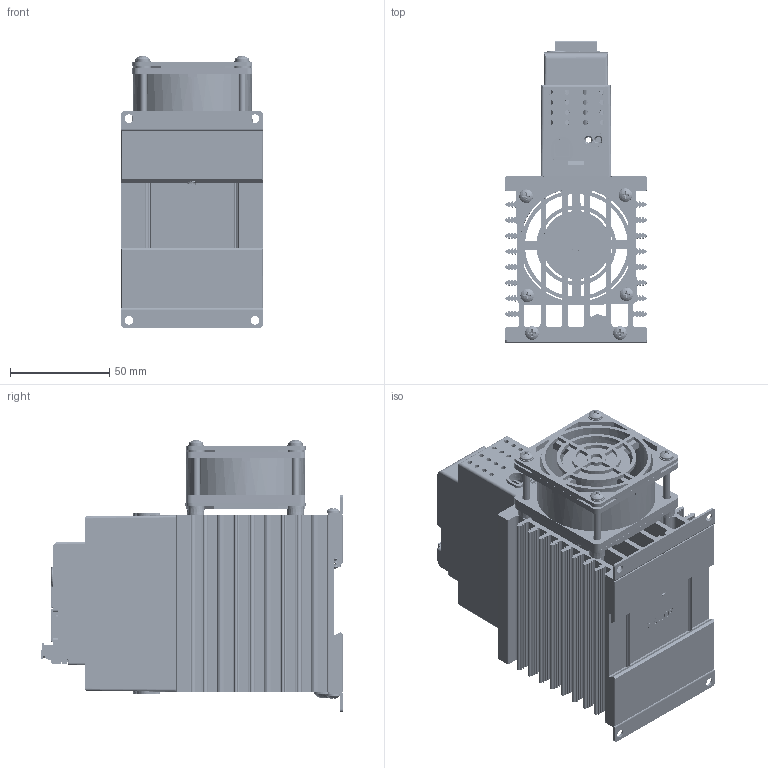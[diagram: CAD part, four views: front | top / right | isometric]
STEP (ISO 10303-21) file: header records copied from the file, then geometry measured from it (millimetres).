
FILE_DESCRIPTION(/* description */ (''),/* implementation_level */ '2;1');
FILE_NAME(/* name */ '1-phase Digital 65A w-mounting.stp',/* time_stamp */ '2024-10-29T13:17:07-05:00',/* author */ ('ErikG'),/* organization */ (''),/* preprocessor_version */ 'ST-DEVELOPER v20',/* originating_system */ 'Autodesk Inventor 2025',/* authorisation */ '');
FILE_SCHEMA (('AUTOMOTIVE_DESIGN { 1 0 10303 214 3 1 1 }'));
Products named in the file (30): 3001631e; 3001762; 1001592E; P6; fci 6 pin header OQ06120000J0G; fci 6 pin headerOQ06120000J0G half 1; fci 5 pin header OQ05120000J0G half 2; 0053035-0138-06; P4; P5; usb-c31-s-vt-cs4-bk-pp-t-r-model ADAMTECH; P2; 74990101210 (rev1); base; shielding; 3001759; 3001760; 3001755; 3001756; 3001747; 3001753; 0060002-0632-0375; 0060783-0610-010.ipt; spring; 0060702-1032-0375; 0060002-0632-1175; 62111-0006-0; 2R36_SQ_FAN_1R0 depth; 3001773; 3001772
Assembly tree (41 placements, depth 5):
  3001631e
    3001762
    1001592E
      P6
        fci 6 pin header OQ06120000J0G
          fci 6 pin headerOQ06120000J0G half 1
          fci 5 pin header OQ05120000J0G half 2
          0053035-0138-06
      P4
        74990101210 (rev1)
          base
          shielding
      P5
        usb-c31-s-vt-cs4-bk-pp-t-r-model ADAMTECH
      P2
        74990101210 (rev1)
          base
          shielding
    3001759
    3001760  x2
    3001755
    3001756
    3001747
    3001753  x2
    0060002-0632-0375  x4
    0060783-0610-010.ipt
    spring
    0060702-1032-0375
    0060002-0632-1175  x4
    62111-0006-0  x4
    2R36_SQ_FAN_1R0 depth
    3001773
    3001772
Bounding box: 71.12 x 151.78 x 136.93 mm (x, y, z)
Volume: 310396 mm3; surface area: 254702.4 mm2
Topology: 36 solids, 130 shells, 7451 faces, 20490 edges, 13426 vertices
Faces by surface type: plane 5198, cylinder 1616, cone 336, bspline 163, torus 111, sphere 27
Full cylindrical faces by diameter (mm): 0.254 x1, 0.45 x2, 0.55 x2, 0.65 x2, 1 x2, 2.3 x12, 2.54 x2, 2.642 x3, 2.95 x6, 3.277 x2, 3.505 x8, 4.293 x8, 4.318 x8, 4.826 x1, 4.917 x1, 6 x1, 6.172 x1, 6.858 x8, 7.493 x8, 7.976 x1, 9.474 x1, 34.29 x1, 57.15 x1, 59.69 x1
Entity records: 217814 total; most frequent: CARTESIAN_POINT 53865, ORIENTED_EDGE 34584, DIRECTION 32322, EDGE_CURVE 17292, LINE 12908, VECTOR 12908, VERTEX_POINT 11348, AXIS2_PLACEMENT_3D 9707
